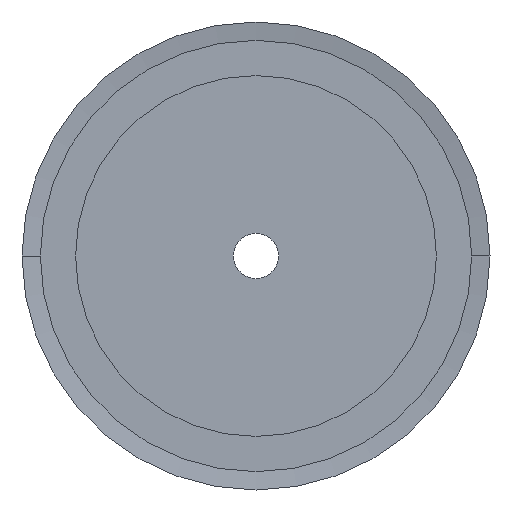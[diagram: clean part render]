
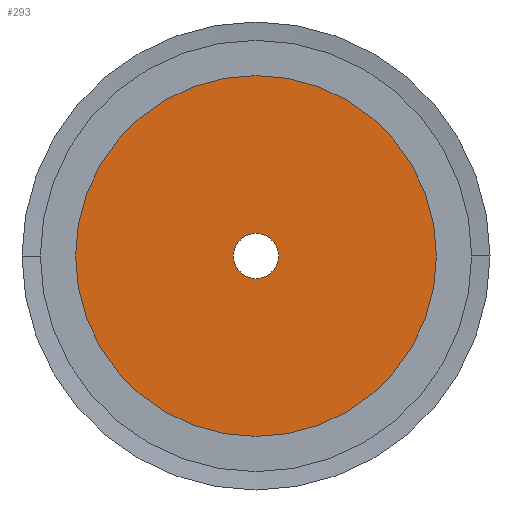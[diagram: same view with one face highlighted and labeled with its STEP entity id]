
A CAD part, left-side view. The second image highlights one B-rep face of the part: STEP entity #293.
In plain terms, the highlighted planar face has unit normal (-1, 0, 0).
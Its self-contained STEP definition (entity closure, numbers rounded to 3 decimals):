
#293 = ADVANCED_FACE( '', ( #737, #738 ), #739, .T. );
#737 = FACE_BOUND( '', #1182, .T. );
#738 = FACE_OUTER_BOUND( '', #1183, .T. );
#739 = PLANE( '', #1184 );
#1182 = EDGE_LOOP( '', ( #3091, #3092 ) );
#1183 = EDGE_LOOP( '', ( #3093, #3094 ) );
#1184 = AXIS2_PLACEMENT_3D( '', #3095, #3096, #3097 );
#3091 = ORIENTED_EDGE( '', *, *, #3720, .F. );
#3092 = ORIENTED_EDGE( '', *, *, #3113, .F. );
#3093 = ORIENTED_EDGE( '', *, *, #3101, .T. );
#3094 = ORIENTED_EDGE( '', *, *, #3725, .T. );
#3095 = CARTESIAN_POINT( '', ( 0., 18., 0. ) );
#3096 = DIRECTION( '', ( -1., 0., 0. ) );
#3097 = DIRECTION( '', ( 0., 1., 0. ) );
#3101 = EDGE_CURVE( '', #3727, #3731, #3733, .T. );
#3113 = EDGE_CURVE( '', #3755, #3751, #3757, .T. );
#3720 = EDGE_CURVE( '', #3751, #3755, #4764, .T. );
#3725 = EDGE_CURVE( '', #3731, #3727, #4769, .T. );
#3727 = VERTEX_POINT( '', #4771 );
#3731 = VERTEX_POINT( '', #4776 );
#3733 = CIRCLE( '', #4779, 32. );
#3751 = VERTEX_POINT( '', #4801 );
#3755 = VERTEX_POINT( '', #4806 );
#3757 = CIRCLE( '', #4809, 4. );
#4764 = CIRCLE( '', #6164, 4. );
#4769 = CIRCLE( '', #6169, 32. );
#4771 = CARTESIAN_POINT( '', ( 0., 32., 0. ) );
#4776 = CARTESIAN_POINT( '', ( 0., -32., 0. ) );
#4779 = AXIS2_PLACEMENT_3D( '', #6175, #6176, #6177 );
#4801 = CARTESIAN_POINT( '', ( 0., 4., 0. ) );
#4806 = CARTESIAN_POINT( '', ( 0., -4., 0. ) );
#4809 = AXIS2_PLACEMENT_3D( '', #6199, #6200, #6201 );
#6164 = AXIS2_PLACEMENT_3D( '', #7324, #7325, #7326 );
#6169 = AXIS2_PLACEMENT_3D( '', #7339, #7340, #7341 );
#6175 = CARTESIAN_POINT( '', ( 0., 0., 0. ) );
#6176 = DIRECTION( '', ( -1., 0., 0. ) );
#6177 = DIRECTION( '', ( 0., 1., 0. ) );
#6199 = CARTESIAN_POINT( '', ( 0., 0., 0. ) );
#6200 = DIRECTION( '', ( -1., 0., 0. ) );
#6201 = DIRECTION( '', ( 0., 1., 0. ) );
#7324 = CARTESIAN_POINT( '', ( 0., 0., 0. ) );
#7325 = DIRECTION( '', ( -1., 0., 0. ) );
#7326 = DIRECTION( '', ( 0., 1., 0. ) );
#7339 = CARTESIAN_POINT( '', ( 0., 0., 0. ) );
#7340 = DIRECTION( '', ( -1., 0., 0. ) );
#7341 = DIRECTION( '', ( 0., 1., 0. ) );
